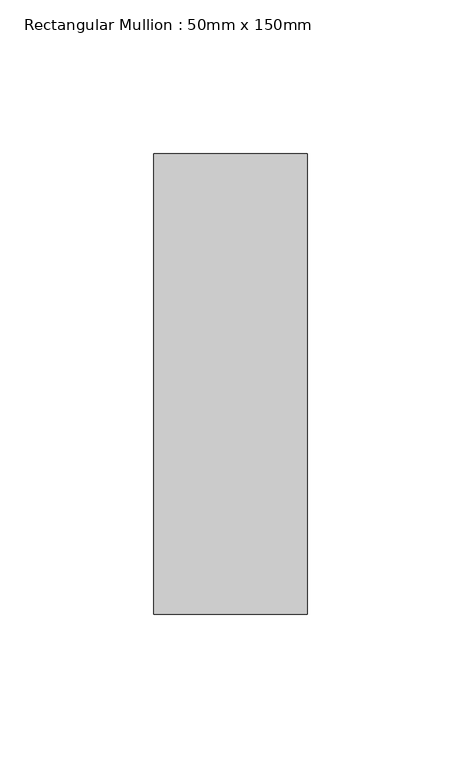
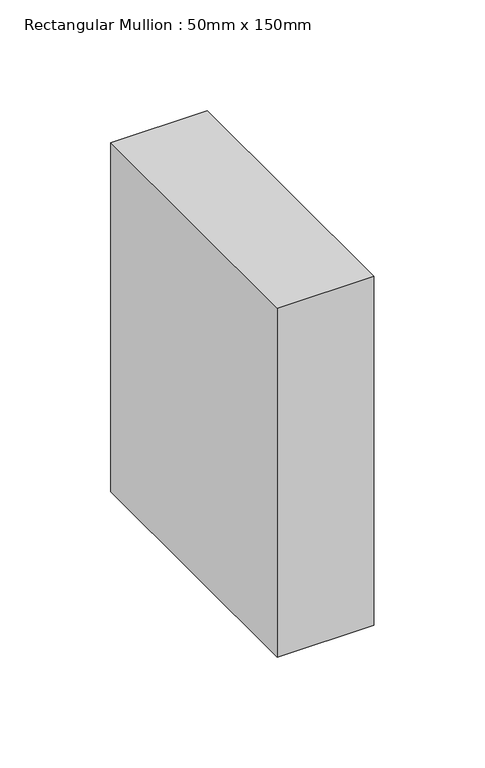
"""IFC4 building model written with IfcOpenShell, lengths in millimetres: member geometry, Rectangular Mullion : 50mm x 150mm."""

from ifc_helpers import new_model, si_unit, frame, origin, place, context, project, spatial, polyline, outline, extrude, source, transform, mapped, element, save


def rectangular_mullion_50mm_x_150mm_5b0837ce(model_context):
    return source(origin(), model_context, "Body", "SweptSolid", [
        extrude(outline(polyline([(25.0, 75.0), (25.0, -75.0), (-25.0, -75.0), (-25.0, 75.0), (25.0, 75.0)])), frame((0.0, 0.0, -191.8586803), z_axis=(0.0, 0.0, 1.0), x_axis=(1.0, 0.0, 0.0)), (0.0, 0.0, 1.0), 191.8586803),
    ])


if __name__ == "__main__":
    model = new_model("IFC4")
    model_context = context("Model", 3, world=origin())
    ifc_project = project(units=[si_unit("LENGTHUNIT", "METRE", prefix="MILLI")], contexts=[model_context])
    site = spatial("IfcSite", under=ifc_project)
    building = spatial("IfcBuilding", under=site)
    placement = place(None, origin())
    rectangular_mullion_50mm_x_150mm_shape = rectangular_mullion_50mm_x_150mm_5b0837ce(model_context)
    element("IfcMember", 1, ObjectType="Rectangular Mullion : 50mm x 150mm", at=placement, inside=building, context=model_context, shape_type="MappedRepresentation", body=[
        mapped(rectangular_mullion_50mm_x_150mm_shape, transform((0.0, 0.0, 0.0), x_axis=(1.0, 0.0, 0.0), y_axis=(0.0, 1.0, 0.0), z_axis=(0.0, 0.0, 1.0))),
    ])
    save(model, "model.ifc")
